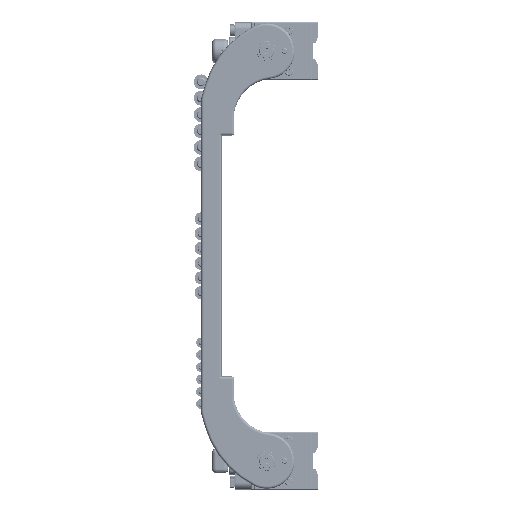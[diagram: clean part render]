
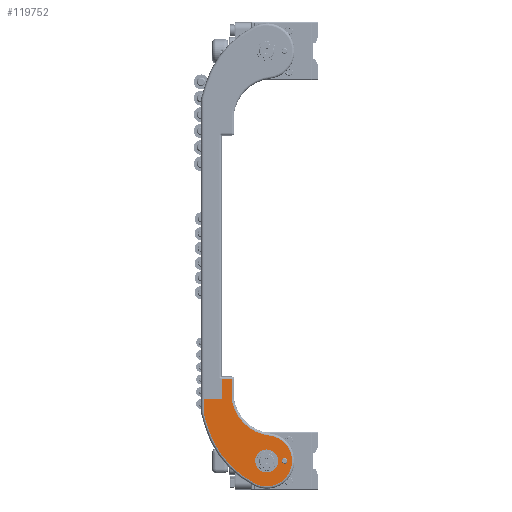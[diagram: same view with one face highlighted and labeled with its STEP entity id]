
A CAD part, left-side view. The second image highlights one B-rep face of the part: STEP entity #119752.
In plain terms, the highlighted planar face has unit normal (-1, 0, 0).
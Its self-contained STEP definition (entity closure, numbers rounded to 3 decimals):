
#10596 = CARTESIAN_POINT ( 'NONE',  ( -188., -7.4, -71. ) ) ;
#11428 = EDGE_LOOP ( 'NONE', ( #423666, #380704, #162394, #379152, #323891, #357545, #210631, #328115, #193942, #64103, #171338, #147952 ) ) ;
#13505 = CARTESIAN_POINT ( 'NONE',  ( -188., -8.584, -101.629 ) ) ;
#14564 = VERTEX_POINT ( 'NONE', #232409 ) ;
#19125 = DIRECTION ( 'NONE',  ( 0., 0., -1. ) ) ;
#20393 = CARTESIAN_POINT ( 'NONE',  ( -188., -59.683, -87.56 ) ) ;
#21114 = CARTESIAN_POINT ( 'NONE',  ( -188., 27., -96. ) ) ;
#25520 = EDGE_CURVE ( 'NONE', #393296, #239775, #406738, .T. ) ;
#31284 = VERTEX_POINT ( 'NONE', #13505 ) ;
#32867 = CIRCLE ( 'NONE', #206120, 33. ) ;
#32910 = EDGE_CURVE ( 'NONE', #393296, #14564, #114125, .T. ) ;
#34229 = VECTOR ( 'NONE', #211508, 1000. ) ;
#35307 = LINE ( 'NONE', #209291, #34229 ) ;
#47288 = AXIS2_PLACEMENT_3D ( 'NONE', #155791, #221400, #433720 ) ;
#47922 = CARTESIAN_POINT ( 'NONE',  ( -188., -50., -171. ) ) ;
#50046 = LINE ( 'NONE', #294090, #392030 ) ;
#52510 = AXIS2_PLACEMENT_3D ( 'NONE', #90509, #260040, #156087 ) ;
#55233 = VERTEX_POINT ( 'NONE', #59667 ) ;
#56506 = DIRECTION ( 'NONE',  ( 0., 0., -1. ) ) ;
#59667 = CARTESIAN_POINT ( 'NONE',  ( -188., -72., -167.6 ) ) ;
#59692 = CARTESIAN_POINT ( 'NONE',  ( -188., -42.94, -201.185 ) ) ;
#60829 = CARTESIAN_POINT ( 'NONE',  ( -188., 27., -113. ) ) ;
#64103 = ORIENTED_EDGE ( 'NONE', *, *, #143695, .T. ) ;
#67663 = DIRECTION ( 'NONE',  ( 0., -0.282, -0.959 ) ) ;
#69721 = DIRECTION ( 'NONE',  ( 0., 0., -1. ) ) ;
#71353 = ORIENTED_EDGE ( 'NONE', *, *, #393789, .F. ) ;
#76763 = DIRECTION ( 'NONE',  ( 0., 0., -1. ) ) ;
#83551 = VECTOR ( 'NONE', #288326, 1000. ) ;
#86722 = CARTESIAN_POINT ( 'NONE',  ( -188., -35.948, -198.632 ) ) ;
#87214 = EDGE_CURVE ( 'NONE', #118790, #31284, #294463, .T. ) ;
#89505 = AXIS2_PLACEMENT_3D ( 'NONE', #20393, #262187, #56506 ) ;
#90509 = CARTESIAN_POINT ( 'NONE',  ( -188., -72., -171. ) ) ;
#92648 = FACE_BOUND ( 'NONE', #434800, .T. ) ;
#110681 = CARTESIAN_POINT ( 'NONE',  ( -188., -59.683, -87.56 ) ) ;
#114125 = CIRCLE ( 'NONE', #367065, 17. ) ;
#118790 = VERTEX_POINT ( 'NONE', #438851 ) ;
#119752 = ADVANCED_FACE ( 'NONE', ( #230512, #92648, #264416 ), #194368, .F. ) ;
#122874 = CARTESIAN_POINT ( 'NONE',  ( -188., -7.4, -92.869 ) ) ;
#125285 = CARTESIAN_POINT ( 'NONE',  ( -188., -88.141, -96. ) ) ;
#130092 = EDGE_CURVE ( 'NONE', #418206, #281090, #35307, .T. ) ;
#130935 = VERTEX_POINT ( 'NONE', #329469 ) ;
#143695 = EDGE_CURVE ( 'NONE', #130935, #327940, #50046, .T. ) ;
#147952 = ORIENTED_EDGE ( 'NONE', *, *, #173154, .T. ) ;
#155791 = CARTESIAN_POINT ( 'NONE',  ( -188., -50., -171. ) ) ;
#156087 = DIRECTION ( 'NONE',  ( 0., 0., 1. ) ) ;
#161614 = VECTOR ( 'NONE', #67663, 1000. ) ;
#162394 = ORIENTED_EDGE ( 'NONE', *, *, #353118, .T. ) ;
#165567 = CARTESIAN_POINT ( 'NONE',  ( -188., -10.4, -96. ) ) ;
#171338 = ORIENTED_EDGE ( 'NONE', *, *, #419258, .T. ) ;
#173154 = EDGE_CURVE ( 'NONE', #246885, #14564, #334322, .T. ) ;
#176010 = EDGE_CURVE ( 'NONE', #387476, #312324, #227763, .T. ) ;
#176144 = EDGE_CURVE ( 'NONE', #31284, #418206, #32867, .T. ) ;
#180459 = CIRCLE ( 'NONE', #267310, 115.141 ) ;
#186406 = DIRECTION ( 'NONE',  ( -1., 0., 0. ) ) ;
#188332 = EDGE_LOOP ( 'NONE', ( #71353 ) ) ;
#193942 = ORIENTED_EDGE ( 'NONE', *, *, #302627, .T. ) ;
#194368 = PLANE ( 'NONE',  #89505 ) ;
#196842 = DIRECTION ( 'NONE',  ( 1., 0., 0. ) ) ;
#199504 = LINE ( 'NONE', #165567, #381447 ) ;
#201265 = CARTESIAN_POINT ( 'NONE',  ( -188., -50., -171. ) ) ;
#206120 = AXIS2_PLACEMENT_3D ( 'NONE', #368548, #196842, #334680 ) ;
#206809 = EDGE_CURVE ( 'NONE', #312324, #118790, #428746, .T. ) ;
#209291 = CARTESIAN_POINT ( 'NONE',  ( -188., -7.4, -87.56 ) ) ;
#210631 = ORIENTED_EDGE ( 'NONE', *, *, #176144, .T. ) ;
#211508 = DIRECTION ( 'NONE',  ( 0., 0., 1. ) ) ;
#215213 = DIRECTION ( 'NONE',  ( -1., 0., 0. ) ) ;
#219693 = DIRECTION ( 'NONE',  ( 0., 0., -1. ) ) ;
#221400 = DIRECTION ( 'NONE',  ( -1., 0., 0. ) ) ;
#227763 = CIRCLE ( 'NONE', #437114, 31. ) ;
#229436 = CARTESIAN_POINT ( 'NONE',  ( -188., 26.31, -114.915 ) ) ;
#230512 = FACE_BOUND ( 'NONE', #188332, .T. ) ;
#232409 = CARTESIAN_POINT ( 'NONE',  ( -188., 27., -110.122 ) ) ;
#239775 = VERTEX_POINT ( 'NONE', #278648 ) ;
#241499 = DIRECTION ( 'NONE',  ( 1., 0., 0. ) ) ;
#242174 = CIRCLE ( 'NONE', #47288, 14. ) ;
#246885 = VERTEX_POINT ( 'NONE', #21114 ) ;
#246990 = VERTEX_POINT ( 'NONE', #344252 ) ;
#251227 = AXIS2_PLACEMENT_3D ( 'NONE', #110681, #386339, #76763 ) ;
#254433 = LINE ( 'NONE', #322229, #83551 ) ;
#260040 = DIRECTION ( 'NONE',  ( -1., 0., 0. ) ) ;
#260179 = DIRECTION ( 'NONE',  ( 0., 0., -1. ) ) ;
#262187 = DIRECTION ( 'NONE',  ( 1., 0., 0. ) ) ;
#264416 = FACE_OUTER_BOUND ( 'NONE', #11428, .T. ) ;
#267310 = AXIS2_PLACEMENT_3D ( 'NONE', #125285, #186406, #19125 ) ;
#278648 = CARTESIAN_POINT ( 'NONE',  ( -188., 22.329, -128.464 ) ) ;
#281090 = VERTEX_POINT ( 'NONE', #10596 ) ;
#288326 = DIRECTION ( 'NONE',  ( 0., 1., 0. ) ) ;
#294090 = CARTESIAN_POINT ( 'NONE',  ( -188., 5., -68. ) ) ;
#294463 = CIRCLE ( 'NONE', #251227, 53. ) ;
#299353 = VECTOR ( 'NONE', #399891, 1000. ) ;
#300780 = DIRECTION ( 'NONE',  ( 0., 0., -1. ) ) ;
#302627 = EDGE_CURVE ( 'NONE', #281090, #130935, #254433, .T. ) ;
#303422 = DIRECTION ( 'NONE',  ( 0., 1., 0. ) ) ;
#312324 = VERTEX_POINT ( 'NONE', #59692 ) ;
#322229 = CARTESIAN_POINT ( 'NONE',  ( -188., -59.683, -71. ) ) ;
#323891 = ORIENTED_EDGE ( 'NONE', *, *, #206809, .T. ) ;
#327459 = AXIS2_PLACEMENT_3D ( 'NONE', #47922, #215213, #219693 ) ;
#327940 = VERTEX_POINT ( 'NONE', #328744 ) ;
#328115 = ORIENTED_EDGE ( 'NONE', *, *, #130092, .T. ) ;
#328744 = CARTESIAN_POINT ( 'NONE',  ( -188., 5., -96. ) ) ;
#329469 = CARTESIAN_POINT ( 'NONE',  ( -188., 5., -71. ) ) ;
#334322 = LINE ( 'NONE', #60829, #299353 ) ;
#334680 = DIRECTION ( 'NONE',  ( 0., 0., -1. ) ) ;
#339097 = DIRECTION ( 'NONE',  ( -1., 0., 0. ) ) ;
#344252 = CARTESIAN_POINT ( 'NONE',  ( -188., -50., -157. ) ) ;
#353118 = EDGE_CURVE ( 'NONE', #239775, #387476, #180459, .T. ) ;
#357545 = ORIENTED_EDGE ( 'NONE', *, *, #87214, .T. ) ;
#367065 = AXIS2_PLACEMENT_3D ( 'NONE', #415445, #241499, #69721 ) ;
#368548 = CARTESIAN_POINT ( 'NONE',  ( -188., -40.4, -92.869 ) ) ;
#377243 = CARTESIAN_POINT ( 'NONE',  ( -188., 22.329, -128.464 ) ) ;
#379152 = ORIENTED_EDGE ( 'NONE', *, *, #176010, .T. ) ;
#380704 = ORIENTED_EDGE ( 'NONE', *, *, #25520, .T. ) ;
#381447 = VECTOR ( 'NONE', #303422, 1000. ) ;
#386339 = DIRECTION ( 'NONE',  ( 1., 0., 0. ) ) ;
#387476 = VERTEX_POINT ( 'NONE', #86722 ) ;
#392030 = VECTOR ( 'NONE', #260179, 1000. ) ;
#393296 = VERTEX_POINT ( 'NONE', #229436 ) ;
#393789 = EDGE_CURVE ( 'NONE', #55233, #55233, #398984, .T. ) ;
#398984 = CIRCLE ( 'NONE', #52510, 3.4 ) ;
#399891 = DIRECTION ( 'NONE',  ( 0., 0., -1. ) ) ;
#404118 = EDGE_CURVE ( 'NONE', #246990, #246990, #242174, .T. ) ;
#405123 = ORIENTED_EDGE ( 'NONE', *, *, #404118, .F. ) ;
#406738 = LINE ( 'NONE', #377243, #161614 ) ;
#415445 = CARTESIAN_POINT ( 'NONE',  ( -188., 10., -110.122 ) ) ;
#418206 = VERTEX_POINT ( 'NONE', #122874 ) ;
#419258 = EDGE_CURVE ( 'NONE', #327940, #246885, #199504, .T. ) ;
#423666 = ORIENTED_EDGE ( 'NONE', *, *, #32910, .F. ) ;
#428746 = CIRCLE ( 'NONE', #327459, 31. ) ;
#433720 = DIRECTION ( 'NONE',  ( 0., 0., 1. ) ) ;
#434800 = EDGE_LOOP ( 'NONE', ( #405123 ) ) ;
#437114 = AXIS2_PLACEMENT_3D ( 'NONE', #201265, #339097, #300780 ) ;
#438851 = CARTESIAN_POINT ( 'NONE',  ( -188., -53.573, -140.207 ) ) ;
